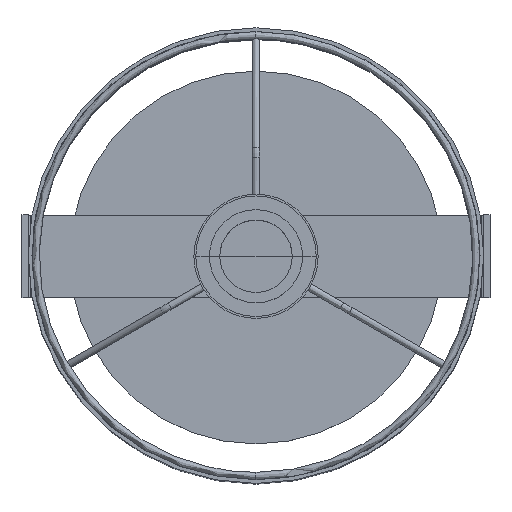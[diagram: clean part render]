
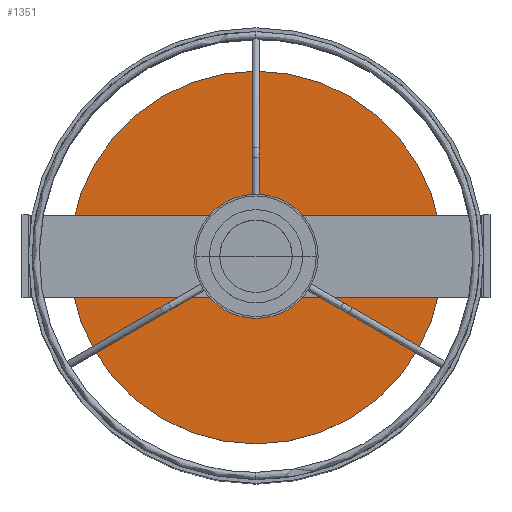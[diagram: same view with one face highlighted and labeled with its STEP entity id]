
A CAD part, top view. The second image highlights one B-rep face of the part: STEP entity #1351.
In plain terms, the highlighted planar face has unit normal (0, 0, 1).
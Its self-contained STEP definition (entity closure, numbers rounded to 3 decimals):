
#111=FACE_BOUND('',#332,.T.);
#144=PLANE('',#1523);
#233=FACE_OUTER_BOUND('',#331,.T.);
#331=EDGE_LOOP('',(#1211,#1212));
#332=EDGE_LOOP('',(#1213,#1214));
#541=CIRCLE('',#1492,90.);
#543=CIRCLE('',#1495,90.);
#555=CIRCLE('',#1524,8.);
#556=CIRCLE('',#1525,8.);
#636=VERTEX_POINT('',#4823);
#637=VERTEX_POINT('',#4824);
#666=VERTEX_POINT('',#4917);
#667=VERTEX_POINT('',#4918);
#803=EDGE_CURVE('',#636,#637,#541,.T.);
#807=EDGE_CURVE('',#637,#636,#543,.T.);
#849=EDGE_CURVE('',#666,#667,#555,.T.);
#850=EDGE_CURVE('',#667,#666,#556,.T.);
#1211=ORIENTED_EDGE('',*,*,#807,.T.);
#1212=ORIENTED_EDGE('',*,*,#803,.T.);
#1213=ORIENTED_EDGE('',*,*,#849,.F.);
#1214=ORIENTED_EDGE('',*,*,#850,.F.);
#1351=ADVANCED_FACE('',(#233,#111),#144,.T.);
#1492=AXIS2_PLACEMENT_3D('',#4825,#1827,#1828);
#1495=AXIS2_PLACEMENT_3D('',#4832,#1835,#1836);
#1523=AXIS2_PLACEMENT_3D('',#4916,#1921,#1922);
#1524=AXIS2_PLACEMENT_3D('',#4919,#1923,#1924);
#1525=AXIS2_PLACEMENT_3D('',#4920,#1925,#1926);
#1827=DIRECTION('center_axis',(0.,0.,1.));
#1828=DIRECTION('ref_axis',(1.,0.,0.));
#1835=DIRECTION('center_axis',(0.,0.,1.));
#1836=DIRECTION('ref_axis',(1.,0.,0.));
#1921=DIRECTION('center_axis',(0.,0.,1.));
#1922=DIRECTION('ref_axis',(0.,1.,0.));
#1923=DIRECTION('center_axis',(0.,0.,1.));
#1924=DIRECTION('ref_axis',(1.,0.,0.));
#1925=DIRECTION('center_axis',(0.,0.,1.));
#1926=DIRECTION('ref_axis',(1.,0.,0.));
#4823=CARTESIAN_POINT('',(90.,0.,7.5));
#4824=CARTESIAN_POINT('',(-90.,0.,7.5));
#4825=CARTESIAN_POINT('Origin',(0.,0.,7.5));
#4832=CARTESIAN_POINT('Origin',(0.,0.,7.5));
#4916=CARTESIAN_POINT('Origin',(90.,0.,7.5));
#4917=CARTESIAN_POINT('',(8.,0.,7.5));
#4918=CARTESIAN_POINT('',(-8.,0.,7.5));
#4919=CARTESIAN_POINT('Origin',(0.,0.,
7.5));
#4920=CARTESIAN_POINT('Origin',(0.,0.,
7.5));
